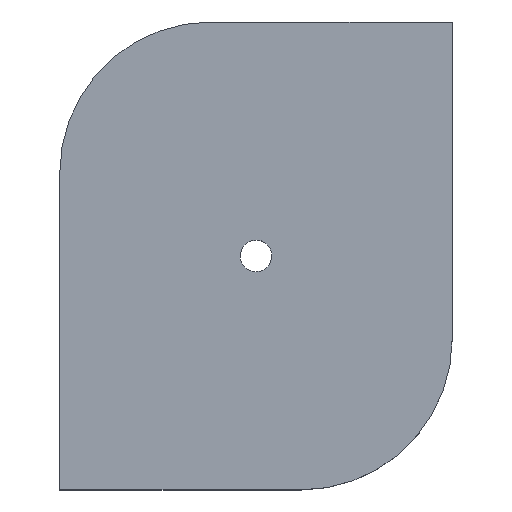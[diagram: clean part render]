
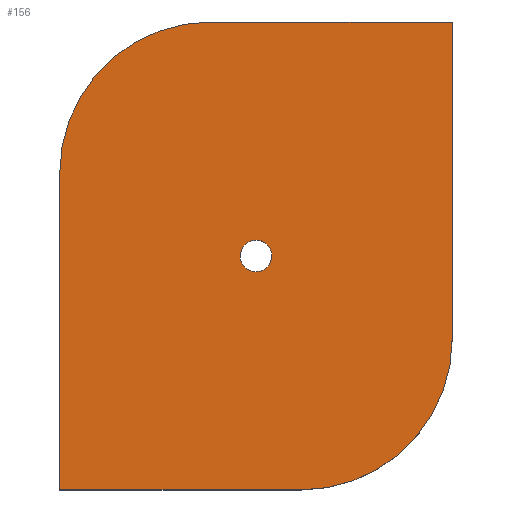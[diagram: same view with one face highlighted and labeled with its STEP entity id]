
A CAD part, top view. The second image highlights one B-rep face of the part: STEP entity #156.
In plain terms, the highlighted planar face has unit normal (0, 0, 1).
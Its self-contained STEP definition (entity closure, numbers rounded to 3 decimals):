
#63=CARTESIAN_POINT('Vertex',(48.325,64.008,19.)) ;
#77=CARTESIAN_POINT('Vertex',(55.675,59.992,19.)) ;
#80=CARTESIAN_POINT('Axis2P3D Location',(52.,62.,19.)) ;
#92=CARTESIAN_POINT('Axis2P3D Location',(0.,0.,19.)) ;
#97=CARTESIAN_POINT('Line Origine',(0.,42.,19.)) ;
#101=CARTESIAN_POINT('Vertex',(0.,84.,19.)) ;
#103=CARTESIAN_POINT('Vertex',(0.,0.,19.)) ;
#106=CARTESIAN_POINT('Line Origine',(32.,0.,19.)) ;
#110=CARTESIAN_POINT('Vertex',(64.,0.,19.)) ;
#113=CARTESIAN_POINT('Axis2P3D Location',(64.,40.,19.)) ;
#117=CARTESIAN_POINT('Vertex',(104.,40.,19.)) ;
#120=CARTESIAN_POINT('Line Origine',(104.,82.,19.)) ;
#124=CARTESIAN_POINT('Vertex',(104.,124.,19.)) ;
#127=CARTESIAN_POINT('Line Origine',(72.,124.,19.)) ;
#131=CARTESIAN_POINT('Vertex',(40.,124.,19.)) ;
#134=CARTESIAN_POINT('Axis2P3D Location',(40.,84.,19.)) ;
#147=CARTESIAN_POINT('Axis2P3D Location',(52.,62.,19.)) ;
#81=DIRECTION('Axis2P3D Direction',(0.,-0.,-1.)) ;
#93=DIRECTION('Axis2P3D Direction',(0.,0.,1.)) ;
#94=DIRECTION('Axis2P3D XDirection',(1.,0.,0.)) ;
#98=DIRECTION('Vector Direction',(0.,-1.,0.)) ;
#107=DIRECTION('Vector Direction',(1.,0.,0.)) ;
#114=DIRECTION('Axis2P3D Direction',(0.,0.,1.)) ;
#121=DIRECTION('Vector Direction',(0.,1.,0.)) ;
#128=DIRECTION('Vector Direction',(-1.,0.,0.)) ;
#135=DIRECTION('Axis2P3D Direction',(0.,0.,1.)) ;
#148=DIRECTION('Axis2P3D Direction',(0.,0.,1.)) ;
#82=AXIS2_PLACEMENT_3D('Circle Axis2P3D',#80,#81,$) ;
#95=AXIS2_PLACEMENT_3D('Plane Axis2P3D',#92,#93,#94) ;
#115=AXIS2_PLACEMENT_3D('Circle Axis2P3D',#113,#114,$) ;
#136=AXIS2_PLACEMENT_3D('Circle Axis2P3D',#134,#135,$) ;
#149=AXIS2_PLACEMENT_3D('Circle Axis2P3D',#147,#148,$) ;
#140=ORIENTED_EDGE('',*,*,#105,.T.) ;
#141=ORIENTED_EDGE('',*,*,#112,.T.) ;
#142=ORIENTED_EDGE('',*,*,#119,.F.) ;
#143=ORIENTED_EDGE('',*,*,#126,.T.) ;
#144=ORIENTED_EDGE('',*,*,#133,.T.) ;
#145=ORIENTED_EDGE('',*,*,#138,.F.) ;
#153=ORIENTED_EDGE('',*,*,#151,.F.) ;
#154=ORIENTED_EDGE('',*,*,#84,.F.) ;
#155=FACE_BOUND('',#152,.T.) ;
#99=VECTOR('Line Direction',#98,1.) ;
#108=VECTOR('Line Direction',#107,1.) ;
#122=VECTOR('Line Direction',#121,1.) ;
#129=VECTOR('Line Direction',#128,1.) ;
#156=ADVANCED_FACE('PartBody',(#146,#155),#96,.T.) ;
#83=CIRCLE('generated circle',#82,4.188) ;
#116=CIRCLE('generated circle',#115,40.) ;
#137=CIRCLE('generated circle',#136,40.) ;
#150=CIRCLE('generated circle',#149,4.188) ;
#84=EDGE_CURVE('',#78,#64,#83,.F.) ;
#105=EDGE_CURVE('',#102,#104,#100,.T.) ;
#112=EDGE_CURVE('',#104,#111,#109,.T.) ;
#119=EDGE_CURVE('',#118,#111,#116,.F.) ;
#126=EDGE_CURVE('',#118,#125,#123,.T.) ;
#133=EDGE_CURVE('',#125,#132,#130,.T.) ;
#138=EDGE_CURVE('',#102,#132,#137,.F.) ;
#151=EDGE_CURVE('',#64,#78,#150,.T.) ;
#139=EDGE_LOOP('',(#140,#141,#142,#143,#144,#145)) ;
#152=EDGE_LOOP('',(#153,#154)) ;
#146=FACE_OUTER_BOUND('',#139,.T.) ;
#100=LINE('Line',#97,#99) ;
#109=LINE('Line',#106,#108) ;
#123=LINE('Line',#120,#122) ;
#130=LINE('Line',#127,#129) ;
#96=PLANE('',#95) ;
#64=VERTEX_POINT('',#63) ;
#78=VERTEX_POINT('',#77) ;
#102=VERTEX_POINT('',#101) ;
#104=VERTEX_POINT('',#103) ;
#111=VERTEX_POINT('',#110) ;
#118=VERTEX_POINT('',#117) ;
#125=VERTEX_POINT('',#124) ;
#132=VERTEX_POINT('',#131) ;
